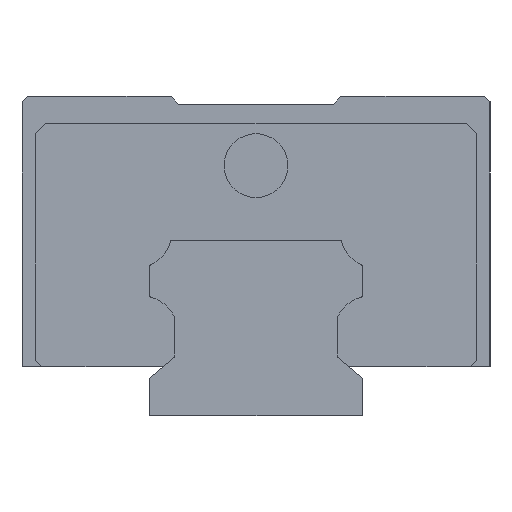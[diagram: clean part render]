
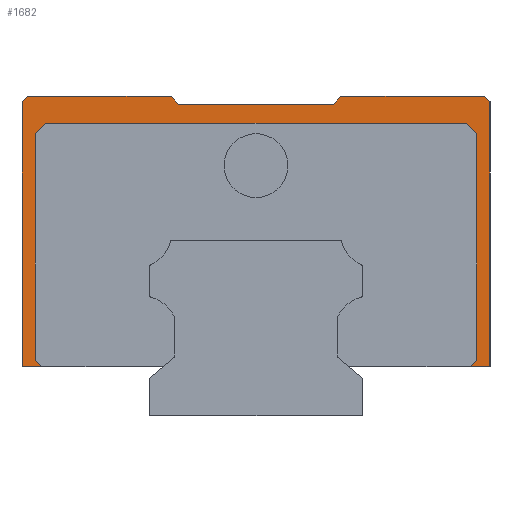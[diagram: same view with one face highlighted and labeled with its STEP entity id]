
A CAD part, left-side view. The second image highlights one B-rep face of the part: STEP entity #1682.
In plain terms, the highlighted planar face has unit normal (-1, 0, 0).
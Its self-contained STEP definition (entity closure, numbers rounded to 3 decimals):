
#62 = VECTOR ( 'NONE', #5565, 1000. ) ;
#67 = EDGE_CURVE ( 'NONE', #2737, #2450, #580, .T. ) ;
#117 = DIRECTION ( 'NONE',  ( 0., -1., 0. ) ) ;
#171 = LINE ( 'NONE', #1727, #1947 ) ;
#206 = EDGE_CURVE ( 'NONE', #5909, #2450, #4503, .T. ) ;
#218 = ORIENTED_EDGE ( 'NONE', *, *, #4512, .F. ) ;
#226 = CARTESIAN_POINT ( 'NONE',  ( -39., 7.333, 29.25 ) ) ;
#251 = DIRECTION ( 'NONE',  ( 0., 0.707, 0.707 ) ) ;
#343 = PLANE ( 'NONE',  #2457 ) ;
#353 = VERTEX_POINT ( 'NONE', #957 ) ;
#430 = CARTESIAN_POINT ( 'NONE',  ( -39., -22., 4.6 ) ) ;
#435 = ORIENTED_EDGE ( 'NONE', *, *, #1666, .F. ) ;
#436 = DIRECTION ( 'NONE',  ( 0., -1., 0. ) ) ;
#440 = EDGE_CURVE ( 'NONE', #1181, #710, #4802, .T. ) ;
#467 = VECTOR ( 'NONE', #251, 1000. ) ;
#526 = CARTESIAN_POINT ( 'NONE',  ( -39., 21.5, 30. ) ) ;
#580 = LINE ( 'NONE', #4371, #859 ) ;
#581 = VERTEX_POINT ( 'NONE', #5480 ) ;
#645 = ORIENTED_EDGE ( 'NONE', *, *, #3292, .F. ) ;
#710 = VERTEX_POINT ( 'NONE', #1779 ) ;
#712 = VERTEX_POINT ( 'NONE', #1314 ) ;
#803 = LINE ( 'NONE', #430, #5628 ) ;
#809 = DIRECTION ( 'NONE',  ( 1., 0., 0. ) ) ;
#816 = LINE ( 'NONE', #2707, #62 ) ;
#828 = DIRECTION ( 'NONE',  ( 0., 1., 0. ) ) ;
#859 = VECTOR ( 'NONE', #117, 1000. ) ;
#892 = CARTESIAN_POINT ( 'NONE',  ( -39., -22., 28. ) ) ;
#957 = CARTESIAN_POINT ( 'NONE',  ( -39., 20.15, 4.6 ) ) ;
#964 = VECTOR ( 'NONE', #4011, 1000. ) ;
#1003 = LINE ( 'NONE', #4769, #3462 ) ;
#1009 = ORIENTED_EDGE ( 'NONE', *, *, #1421, .T. ) ;
#1025 = VERTEX_POINT ( 'NONE', #5500 ) ;
#1081 = LINE ( 'NONE', #3484, #3954 ) ;
#1181 = VERTEX_POINT ( 'NONE', #4142 ) ;
#1205 = CARTESIAN_POINT ( 'NONE',  ( -39., -7.333, 29.25 ) ) ;
#1228 = DIRECTION ( 'NONE',  ( 0., 0., 1. ) ) ;
#1314 = CARTESIAN_POINT ( 'NONE',  ( -39., -20.75, 5.2 ) ) ;
#1397 = VERTEX_POINT ( 'NONE', #2994 ) ;
#1421 = EDGE_CURVE ( 'NONE', #2737, #2324, #1081, .T. ) ;
#1542 = VECTOR ( 'NONE', #5263, 1000. ) ;
#1626 = CARTESIAN_POINT ( 'NONE',  ( -39., 9., 4.6 ) ) ;
#1666 = EDGE_CURVE ( 'NONE', #1025, #3928, #2609, .T. ) ;
#1682 = ADVANCED_FACE ( 'NONE', ( #5583 ), #343, .F. ) ;
#1700 = EDGE_CURVE ( 'NONE', #1181, #5259, #2798, .T. ) ;
#1727 = CARTESIAN_POINT ( 'NONE',  ( -39., -19.625, 27.625 ) ) ;
#1779 = CARTESIAN_POINT ( 'NONE',  ( -39., 22., 29.5 ) ) ;
#1825 = VECTOR ( 'NONE', #5360, 1000. ) ;
#1847 = VERTEX_POINT ( 'NONE', #3055 ) ;
#1868 = DIRECTION ( 'NONE',  ( 0., 0., -1. ) ) ;
#1947 = VECTOR ( 'NONE', #4909, 1000. ) ;
#1994 = LINE ( 'NONE', #4711, #2678 ) ;
#2030 = LINE ( 'NONE', #5947, #5841 ) ;
#2171 = ORIENTED_EDGE ( 'NONE', *, *, #206, .T. ) ;
#2231 = EDGE_CURVE ( 'NONE', #5084, #353, #3018, .T. ) ;
#2324 = VERTEX_POINT ( 'NONE', #1205 ) ;
#2422 = CARTESIAN_POINT ( 'NONE',  ( -39., -22., 30. ) ) ;
#2450 = VERTEX_POINT ( 'NONE', #4263 ) ;
#2457 = AXIS2_PLACEMENT_3D ( 'NONE', #2422, #809, #5060 ) ;
#2561 = CARTESIAN_POINT ( 'NONE',  ( -39., -33.775, 18.225 ) ) ;
#2609 = LINE ( 'NONE', #3607, #3552 ) ;
#2678 = VECTOR ( 'NONE', #4310, 1000. ) ;
#2699 = CARTESIAN_POINT ( 'NONE',  ( -39., -7.963, 30. ) ) ;
#2707 = CARTESIAN_POINT ( 'NONE',  ( -39., -7.333, 29.25 ) ) ;
#2737 = VERTEX_POINT ( 'NONE', #2699 ) ;
#2752 = CARTESIAN_POINT ( 'NONE',  ( -39., 20.75, 5.2 ) ) ;
#2798 = LINE ( 'NONE', #4681, #4935 ) ;
#2994 = CARTESIAN_POINT ( 'NONE',  ( -39., -20.15, 4.6 ) ) ;
#2998 = LINE ( 'NONE', #2561, #3456 ) ;
#3018 = LINE ( 'NONE', #4904, #3464 ) ;
#3055 = CARTESIAN_POINT ( 'NONE',  ( -39., 22., 4.6 ) ) ;
#3209 = CARTESIAN_POINT ( 'NONE',  ( -39., -20.75, 26.5 ) ) ;
#3265 = EDGE_CURVE ( 'NONE', #4720, #1397, #803, .T. ) ;
#3292 = EDGE_CURVE ( 'NONE', #5909, #4720, #5168, .T. ) ;
#3328 = VERTEX_POINT ( 'NONE', #5634 ) ;
#3379 = LINE ( 'NONE', #3796, #4853 ) ;
#3456 = VECTOR ( 'NONE', #5092, 1000. ) ;
#3462 = VECTOR ( 'NONE', #3837, 1000. ) ;
#3464 = VECTOR ( 'NONE', #3518, 1000. ) ;
#3484 = CARTESIAN_POINT ( 'NONE',  ( -39., -7.963, 30. ) ) ;
#3510 = ORIENTED_EDGE ( 'NONE', *, *, #3612, .F. ) ;
#3518 = DIRECTION ( 'NONE',  ( 0., -0.707, -0.707 ) ) ;
#3534 = EDGE_CURVE ( 'NONE', #1397, #712, #2998, .T. ) ;
#3552 = VECTOR ( 'NONE', #5488, 1000. ) ;
#3607 = CARTESIAN_POINT ( 'NONE',  ( -39., -2.375, 49.625 ) ) ;
#3612 = EDGE_CURVE ( 'NONE', #4216, #3328, #171, .T. ) ;
#3693 = LINE ( 'NONE', #226, #964 ) ;
#3731 = ORIENTED_EDGE ( 'NONE', *, *, #67, .F. ) ;
#3765 = CARTESIAN_POINT ( 'NONE',  ( -39., -22., 4.6 ) ) ;
#3796 = CARTESIAN_POINT ( 'NONE',  ( -39., 20.75, 30. ) ) ;
#3833 = ORIENTED_EDGE ( 'NONE', *, *, #1700, .F. ) ;
#3837 = DIRECTION ( 'NONE',  ( 0., 0., 1. ) ) ;
#3877 = ORIENTED_EDGE ( 'NONE', *, *, #4776, .F. ) ;
#3920 = EDGE_CURVE ( 'NONE', #712, #4216, #1003, .T. ) ;
#3928 = VERTEX_POINT ( 'NONE', #5717 ) ;
#3929 = ORIENTED_EDGE ( 'NONE', *, *, #3534, .F. ) ;
#3954 = VECTOR ( 'NONE', #5328, 1000. ) ;
#4011 = DIRECTION ( 'NONE',  ( 0., 0.643, 0.766 ) ) ;
#4038 = CARTESIAN_POINT ( 'NONE',  ( -39., -22., 29.5 ) ) ;
#4040 = EDGE_LOOP ( 'NONE', ( #5567, #3877, #435, #5755, #3510, #5698, #3929, #4062, #645, #2171, #3731, #1009, #5369, #4953, #3833, #5346, #218, #4485 ) ) ;
#4049 = VECTOR ( 'NONE', #1868, 1000. ) ;
#4062 = ORIENTED_EDGE ( 'NONE', *, *, #3265, .F. ) ;
#4142 = CARTESIAN_POINT ( 'NONE',  ( -39., 21.5, 30. ) ) ;
#4216 = VERTEX_POINT ( 'NONE', #3209 ) ;
#4243 = CARTESIAN_POINT ( 'NONE',  ( -39., 7.963, 30. ) ) ;
#4263 = CARTESIAN_POINT ( 'NONE',  ( -39., -21.5, 30. ) ) ;
#4310 = DIRECTION ( 'NONE',  ( 0., 1., 0. ) ) ;
#4371 = CARTESIAN_POINT ( 'NONE',  ( -39., 22., 30. ) ) ;
#4485 = ORIENTED_EDGE ( 'NONE', *, *, #4954, .F. ) ;
#4503 = LINE ( 'NONE', #5971, #467 ) ;
#4512 = EDGE_CURVE ( 'NONE', #1847, #710, #2030, .T. ) ;
#4523 = LINE ( 'NONE', #1626, #1825 ) ;
#4681 = CARTESIAN_POINT ( 'NONE',  ( -39., 22., 30. ) ) ;
#4711 = CARTESIAN_POINT ( 'NONE',  ( -39., -22., 27.5 ) ) ;
#4720 = VERTEX_POINT ( 'NONE', #3765 ) ;
#4769 = CARTESIAN_POINT ( 'NONE',  ( -39., -20.75, 30. ) ) ;
#4776 = EDGE_CURVE ( 'NONE', #3928, #5084, #3379, .T. ) ;
#4779 = DIRECTION ( 'NONE',  ( 0., 0., -1. ) ) ;
#4802 = LINE ( 'NONE', #526, #1542 ) ;
#4853 = VECTOR ( 'NONE', #4779, 1000. ) ;
#4890 = EDGE_CURVE ( 'NONE', #3328, #1025, #1994, .T. ) ;
#4904 = CARTESIAN_POINT ( 'NONE',  ( -39., 11.775, -3.775 ) ) ;
#4909 = DIRECTION ( 'NONE',  ( 0., 0.707, 0.707 ) ) ;
#4935 = VECTOR ( 'NONE', #436, 1000. ) ;
#4953 = ORIENTED_EDGE ( 'NONE', *, *, #5878, .T. ) ;
#4954 = EDGE_CURVE ( 'NONE', #353, #1847, #4523, .T. ) ;
#5060 = DIRECTION ( 'NONE',  ( 0., 1., 0. ) ) ;
#5084 = VERTEX_POINT ( 'NONE', #2752 ) ;
#5092 = DIRECTION ( 'NONE',  ( 0., -0.707, 0.707 ) ) ;
#5168 = LINE ( 'NONE', #892, #4049 ) ;
#5259 = VERTEX_POINT ( 'NONE', #4243 ) ;
#5263 = DIRECTION ( 'NONE',  ( 0., 0.707, -0.707 ) ) ;
#5328 = DIRECTION ( 'NONE',  ( 0., 0.643, -0.766 ) ) ;
#5346 = ORIENTED_EDGE ( 'NONE', *, *, #440, .T. ) ;
#5360 = DIRECTION ( 'NONE',  ( 0., 1., 0. ) ) ;
#5369 = ORIENTED_EDGE ( 'NONE', *, *, #5425, .T. ) ;
#5425 = EDGE_CURVE ( 'NONE', #2324, #581, #816, .T. ) ;
#5480 = CARTESIAN_POINT ( 'NONE',  ( -39., 7.333, 29.25 ) ) ;
#5488 = DIRECTION ( 'NONE',  ( 0., 0.707, -0.707 ) ) ;
#5500 = CARTESIAN_POINT ( 'NONE',  ( -39., 19.75, 27.5 ) ) ;
#5565 = DIRECTION ( 'NONE',  ( 0., 1., 0. ) ) ;
#5567 = ORIENTED_EDGE ( 'NONE', *, *, #2231, .F. ) ;
#5583 = FACE_OUTER_BOUND ( 'NONE', #4040, .T. ) ;
#5628 = VECTOR ( 'NONE', #828, 1000. ) ;
#5634 = CARTESIAN_POINT ( 'NONE',  ( -39., -19.75, 27.5 ) ) ;
#5698 = ORIENTED_EDGE ( 'NONE', *, *, #3920, .F. ) ;
#5717 = CARTESIAN_POINT ( 'NONE',  ( -39., 20.75, 26.5 ) ) ;
#5755 = ORIENTED_EDGE ( 'NONE', *, *, #4890, .F. ) ;
#5841 = VECTOR ( 'NONE', #1228, 1000. ) ;
#5878 = EDGE_CURVE ( 'NONE', #581, #5259, #3693, .T. ) ;
#5909 = VERTEX_POINT ( 'NONE', #4038 ) ;
#5947 = CARTESIAN_POINT ( 'NONE',  ( -39., 22., 4.6 ) ) ;
#5971 = CARTESIAN_POINT ( 'NONE',  ( -39., -22., 29.5 ) ) ;
